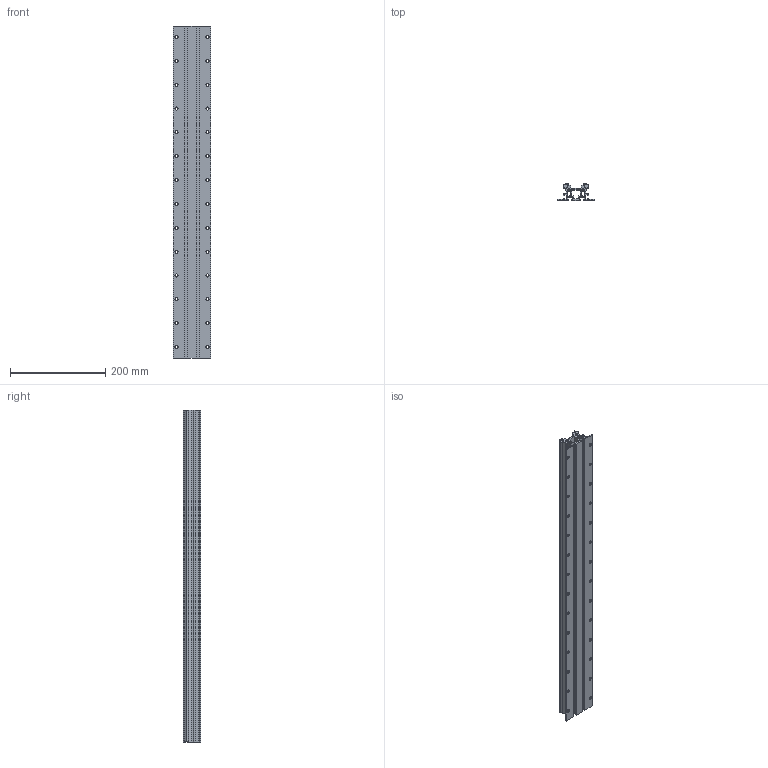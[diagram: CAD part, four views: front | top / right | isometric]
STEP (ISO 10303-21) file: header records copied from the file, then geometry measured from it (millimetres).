
FILE_DESCRIPTION (( 'STEP AP203' ), '1' );
FILE_NAME ('LFS-8-7_-_L=696.step', '2006-12-18T13:26:47', ( ' ' ), ( ' ' ), 'SwSTEP 2.0', 'SolidWorks 2006089', '' );
FILE_SCHEMA (( 'CONFIG_CONTROL_DESIGN' ));
Length unit declared in the file: millimetre
Products named in the file (1): LFS-8-7_-_L=696
Bounding box: 78 x 36 x 696 mm (x, y, z)
Volume: 602126.7 mm3; surface area: 388141 mm2
Topology: 3 solids, 3 shells, 287 faces, 871 edges, 562 vertices
Faces by surface type: plane 175, cylinder 112
Entity records: 9898 total; most frequent: CARTESIAN_POINT 2057, ORIENTED_EDGE 1742, DIRECTION 1559, EDGE_CURVE 871, VERTEX_POINT 562, VECTOR 535, LINE 535, AXIS2_PLACEMENT_3D 512
